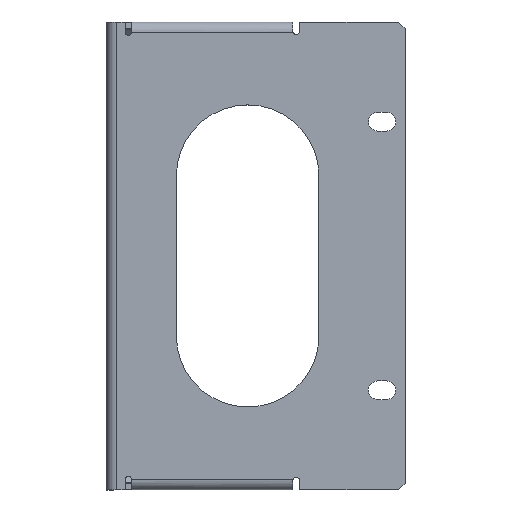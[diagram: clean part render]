
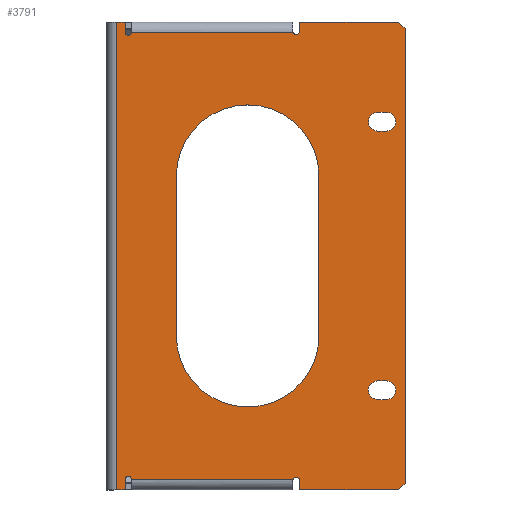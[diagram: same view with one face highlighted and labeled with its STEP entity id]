
A CAD part, top view. The second image highlights one B-rep face of the part: STEP entity #3791.
In plain terms, the highlighted planar face has unit normal (0, 0, 1).
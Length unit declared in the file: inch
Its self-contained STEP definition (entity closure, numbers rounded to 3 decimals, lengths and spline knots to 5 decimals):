
#757=DIRECTION('',(1.,0.,0.));
#758=VECTOR('',#757,2.40123);
#759=CARTESIAN_POINT('',(0.37146,-3.335,0.));
#760=LINE('',#759,#758);
#761=CARTESIAN_POINT('',(0.32146,-3.335,0.));
#762=DIRECTION('',(0.,0.,-1.));
#763=DIRECTION('',(-1.,0.,0.));
#764=AXIS2_PLACEMENT_3D('',#761,#762,#763);
#766=DIRECTION('',(0.,1.,0.));
#767=VECTOR('',#766,0.15);
#768=CARTESIAN_POINT('',(0.27146,-3.485,0.));
#769=LINE('',#768,#767);
#770=DIRECTION('',(1.,0.,0.));
#771=VECTOR('',#770,0.12146);
#772=CARTESIAN_POINT('',(0.15,-3.485,0.));
#773=LINE('',#772,#771);
#774=DIRECTION('',(-1.,0.,0.));
#775=VECTOR('',#774,0.12146);
#776=CARTESIAN_POINT('',(0.27146,3.485,0.));
#777=LINE('',#776,#775);
#778=DIRECTION('',(0.,1.,0.));
#779=VECTOR('',#778,0.15);
#780=CARTESIAN_POINT('',(0.27146,3.335,0.));
#781=LINE('',#780,#779);
#782=CARTESIAN_POINT('',(0.32146,3.335,0.));
#783=DIRECTION('',(0.,0.,-1.));
#784=DIRECTION('',(1.,0.,0.));
#785=AXIS2_PLACEMENT_3D('',#782,#783,#784);
#787=DIRECTION('',(1.,0.,0.));
#788=VECTOR('',#787,2.40123);
#789=CARTESIAN_POINT('',(0.37146,3.335,0.));
#790=LINE('',#789,#788);
#791=CARTESIAN_POINT('',(2.82146,3.346,0.));
#792=DIRECTION('',(0.,0.,-1.));
#793=DIRECTION('',(1.,0.,0.));
#794=AXIS2_PLACEMENT_3D('',#791,#792,#793);
#796=DIRECTION('',(0.,-1.,0.));
#797=VECTOR('',#796,0.139);
#798=CARTESIAN_POINT('',(2.87146,3.485,0.));
#799=LINE('',#798,#797);
#800=DIRECTION('',(-1.,0.,0.));
#801=VECTOR('',#800,1.4726);
#802=CARTESIAN_POINT('',(4.34406,3.485,0.));
#803=LINE('',#802,#801);
#804=DIRECTION('',(0.,1.,0.));
#805=VECTOR('',#804,6.77);
#806=CARTESIAN_POINT('',(4.44406,-3.385,0.));
#807=LINE('',#806,#805);
#808=DIRECTION('',(1.,0.,0.));
#809=VECTOR('',#808,1.4726);
#810=CARTESIAN_POINT('',(2.87146,-3.485,0.));
#811=LINE('',#810,#809);
#812=DIRECTION('',(0.,-1.,0.));
#813=VECTOR('',#812,0.139);
#814=CARTESIAN_POINT('',(2.87146,-3.346,0.));
#815=LINE('',#814,#813);
#816=CARTESIAN_POINT('',(2.82146,-3.346,0.));
#817=DIRECTION('',(0.,0.,-1.));
#818=DIRECTION('',(-0.975,0.22,0.));
#819=AXIS2_PLACEMENT_3D('',#816,#817,#818);
#821=DIRECTION('',(0.,-1.,0.));
#822=VECTOR('',#821,2.375);
#823=CARTESIAN_POINT('',(3.16,1.1875,0.));
#824=LINE('',#823,#822);
#825=CARTESIAN_POINT('',(2.0975,1.1875,0.));
#826=DIRECTION('',(0.,0.,1.));
#827=DIRECTION('',(1.,0.,0.));
#828=AXIS2_PLACEMENT_3D('',#825,#826,#827);
#830=DIRECTION('',(0.,1.,0.));
#831=VECTOR('',#830,2.375);
#832=CARTESIAN_POINT('',(1.035,-1.1875,0.));
#833=LINE('',#832,#831);
#834=CARTESIAN_POINT('',(2.0975,-1.1875,0.));
#835=DIRECTION('',(0.,0.,1.));
#836=DIRECTION('',(-1.,0.,0.));
#837=AXIS2_PLACEMENT_3D('',#834,#835,#836);
#839=DIRECTION('',(1.,0.,0.));
#840=VECTOR('',#839,0.128);
#841=CARTESIAN_POINT('',(4.036,2.139,0.));
#842=LINE('',#841,#840);
#843=CARTESIAN_POINT('',(4.036,2.,0.));
#844=DIRECTION('',(0.,0.,1.));
#845=DIRECTION('',(0.,1.,0.));
#846=AXIS2_PLACEMENT_3D('',#843,#844,#845);
#848=DIRECTION('',(-1.,0.,0.));
#849=VECTOR('',#848,0.128);
#850=CARTESIAN_POINT('',(4.164,1.861,0.));
#851=LINE('',#850,#849);
#852=CARTESIAN_POINT('',(4.164,2.,0.));
#853=DIRECTION('',(0.,0.,1.));
#854=DIRECTION('',(0.,-1.,0.));
#855=AXIS2_PLACEMENT_3D('',#852,#853,#854);
#857=CARTESIAN_POINT('',(4.036,-2.,0.));
#858=DIRECTION('',(0.,0.,1.));
#859=DIRECTION('',(0.,1.,0.));
#860=AXIS2_PLACEMENT_3D('',#857,#858,#859);
#862=DIRECTION('',(-1.,0.,0.));
#863=VECTOR('',#862,0.128);
#864=CARTESIAN_POINT('',(4.164,-2.139,0.));
#865=LINE('',#864,#863);
#866=CARTESIAN_POINT('',(4.164,-2.,0.));
#867=DIRECTION('',(0.,0.,1.));
#868=DIRECTION('',(0.,-1.,0.));
#869=AXIS2_PLACEMENT_3D('',#866,#867,#868);
#871=DIRECTION('',(1.,0.,0.));
#872=VECTOR('',#871,0.128);
#873=CARTESIAN_POINT('',(4.036,-1.861,0.));
#874=LINE('',#873,#872);
#1031=DIRECTION('',(0.707,0.707,0.));
#1032=VECTOR('',#1031,0.14142);
#1033=CARTESIAN_POINT('',(4.34406,-3.485,0.));
#1034=LINE('',#1033,#1032);
#1047=DIRECTION('',(-0.707,0.707,0.));
#1048=VECTOR('',#1047,0.14142);
#1049=CARTESIAN_POINT('',(4.44406,3.385,0.));
#1050=LINE('',#1049,#1048);
#1244=DIRECTION('',(0.,1.,0.));
#1245=VECTOR('',#1244,6.97);
#1246=CARTESIAN_POINT('',(0.15,-3.485,0.));
#1247=LINE('',#1246,#1245);
#2457=CARTESIAN_POINT('',(0.27146,3.485,0.));
#2458=CARTESIAN_POINT('',(0.15,3.485,0.));
#2459=VERTEX_POINT('',#2457);
#2460=VERTEX_POINT('',#2458);
#2469=CARTESIAN_POINT('',(3.16,1.1875,0.));
#2470=CARTESIAN_POINT('',(3.16,-1.1875,0.));
#2471=VERTEX_POINT('',#2469);
#2472=VERTEX_POINT('',#2470);
#2473=CARTESIAN_POINT('',(1.035,-1.1875,0.));
#2474=VERTEX_POINT('',#2473);
#2475=CARTESIAN_POINT('',(1.035,1.1875,0.));
#2476=VERTEX_POINT('',#2475);
#2485=CARTESIAN_POINT('',(4.036,2.139,0.));
#2486=CARTESIAN_POINT('',(4.164,2.139,0.));
#2487=VERTEX_POINT('',#2485);
#2488=VERTEX_POINT('',#2486);
#2489=CARTESIAN_POINT('',(4.164,1.861,0.));
#2490=VERTEX_POINT('',#2489);
#2491=CARTESIAN_POINT('',(4.036,1.861,0.));
#2492=VERTEX_POINT('',#2491);
#2493=CARTESIAN_POINT('',(4.036,-1.861,0.));
#2494=CARTESIAN_POINT('',(4.036,-2.139,0.));
#2495=VERTEX_POINT('',#2493);
#2496=VERTEX_POINT('',#2494);
#2497=CARTESIAN_POINT('',(4.164,-1.861,0.));
#2498=VERTEX_POINT('',#2497);
#2499=CARTESIAN_POINT('',(4.164,-2.139,0.));
#2500=VERTEX_POINT('',#2499);
#2685=CARTESIAN_POINT('',(4.44406,3.385,0.));
#2687=VERTEX_POINT('',#2685);
#2689=CARTESIAN_POINT('',(4.34406,3.485,0.));
#2691=VERTEX_POINT('',#2689);
#2693=CARTESIAN_POINT('',(4.34406,-3.485,0.));
#2695=VERTEX_POINT('',#2693);
#2697=CARTESIAN_POINT('',(4.44406,-3.385,0.));
#2699=VERTEX_POINT('',#2697);
#2701=CARTESIAN_POINT('',(2.87146,3.485,0.));
#2702=CARTESIAN_POINT('',(2.87146,3.346,0.));
#2703=VERTEX_POINT('',#2701);
#2704=VERTEX_POINT('',#2702);
#2705=CARTESIAN_POINT('',(0.27146,3.335,0.));
#2706=VERTEX_POINT('',#2705);
#2737=CARTESIAN_POINT('',(0.37146,3.335,0.));
#2738=VERTEX_POINT('',#2737);
#2743=CARTESIAN_POINT('',(2.77269,3.335,0.));
#2744=VERTEX_POINT('',#2743);
#2768=CARTESIAN_POINT('',(0.27146,-3.485,0.));
#2769=CARTESIAN_POINT('',(0.27146,-3.335,0.));
#2770=VERTEX_POINT('',#2768);
#2771=VERTEX_POINT('',#2769);
#2776=CARTESIAN_POINT('',(2.87146,-3.346,0.));
#2777=CARTESIAN_POINT('',(2.87146,-3.485,0.));
#2778=VERTEX_POINT('',#2776);
#2779=VERTEX_POINT('',#2777);
#2800=CARTESIAN_POINT('',(0.15,-3.485,0.));
#2801=VERTEX_POINT('',#2800);
#2808=CARTESIAN_POINT('',(2.77269,-3.335,0.));
#2809=VERTEX_POINT('',#2808);
#2825=CARTESIAN_POINT('',(0.37146,-3.335,0.));
#2826=VERTEX_POINT('',#2825);
#3719=CARTESIAN_POINT('',(0.17146,0.,0.));
#3720=DIRECTION('',(0.,0.,1.));
#3721=DIRECTION('',(1.,0.,0.));
#3722=AXIS2_PLACEMENT_3D('',#3719,#3720,#3721);
#3723=PLANE('',#3722);
#3725=ORIENTED_EDGE('',*,*,#3724,.F.);
#3727=ORIENTED_EDGE('',*,*,#3726,.F.);
#3729=ORIENTED_EDGE('',*,*,#3728,.F.);
#3730=ORIENTED_EDGE('',*,*,#3710,.F.);
#3732=ORIENTED_EDGE('',*,*,#3731,.T.);
#3734=ORIENTED_EDGE('',*,*,#3733,.F.);
#3736=ORIENTED_EDGE('',*,*,#3735,.F.);
#3738=ORIENTED_EDGE('',*,*,#3737,.F.);
#3740=ORIENTED_EDGE('',*,*,#3739,.T.);
#3742=ORIENTED_EDGE('',*,*,#3741,.F.);
#3744=ORIENTED_EDGE('',*,*,#3743,.F.);
#3746=ORIENTED_EDGE('',*,*,#3745,.F.);
#3748=ORIENTED_EDGE('',*,*,#3747,.F.);
#3750=ORIENTED_EDGE('',*,*,#3749,.F.);
#3752=ORIENTED_EDGE('',*,*,#3751,.F.);
#3754=ORIENTED_EDGE('',*,*,#3753,.F.);
#3756=ORIENTED_EDGE('',*,*,#3755,.F.);
#3758=ORIENTED_EDGE('',*,*,#3757,.F.);
#3759=EDGE_LOOP('',(#3725,#3727,#3729,#3730,#3732,#3734,#3736,#3738,#3740,#3742,
#3744,#3746,#3748,#3750,#3752,#3754,#3756,#3758));
#3760=FACE_OUTER_BOUND('',#3759,.F.);
#3762=ORIENTED_EDGE('',*,*,#3761,.F.);
#3764=ORIENTED_EDGE('',*,*,#3763,.T.);
#3766=ORIENTED_EDGE('',*,*,#3765,.F.);
#3768=ORIENTED_EDGE('',*,*,#3767,.T.);
#3769=EDGE_LOOP('',(#3762,#3764,#3766,#3768));
#3770=FACE_BOUND('',#3769,.F.);
#3772=ORIENTED_EDGE('',*,*,#3771,.F.);
#3774=ORIENTED_EDGE('',*,*,#3773,.T.);
#3776=ORIENTED_EDGE('',*,*,#3775,.F.);
#3778=ORIENTED_EDGE('',*,*,#3777,.T.);
#3779=EDGE_LOOP('',(#3772,#3774,#3776,#3778));
#3780=FACE_BOUND('',#3779,.F.);
#3782=ORIENTED_EDGE('',*,*,#3781,.T.);
#3784=ORIENTED_EDGE('',*,*,#3783,.F.);
#3786=ORIENTED_EDGE('',*,*,#3785,.T.);
#3788=ORIENTED_EDGE('',*,*,#3787,.F.);
#3789=EDGE_LOOP('',(#3782,#3784,#3786,#3788));
#3790=FACE_BOUND('',#3789,.F.);
#3791=ADVANCED_FACE('',(#3760,#3770,#3780,#3790),#3723,.T.);
#765=CIRCLE('',#764,0.05);
#786=CIRCLE('',#785,0.05);
#795=CIRCLE('',#794,0.05);
#820=CIRCLE('',#819,0.05);
#829=CIRCLE('',#828,1.0625);
#838=CIRCLE('',#837,1.0625);
#847=CIRCLE('',#846,0.139);
#856=CIRCLE('',#855,0.139);
#861=CIRCLE('',#860,0.139);
#870=CIRCLE('',#869,0.139);
#3710=EDGE_CURVE('',#2801,#2770,#773,.T.);
#3724=EDGE_CURVE('',#2826,#2809,#760,.T.);
#3726=EDGE_CURVE('',#2771,#2826,#765,.T.);
#3728=EDGE_CURVE('',#2770,#2771,#769,.T.);
#3731=EDGE_CURVE('',#2801,#2460,#1247,.T.);
#3733=EDGE_CURVE('',#2459,#2460,#777,.T.);
#3735=EDGE_CURVE('',#2706,#2459,#781,.T.);
#3737=EDGE_CURVE('',#2738,#2706,#786,.T.);
#3739=EDGE_CURVE('',#2738,#2744,#790,.T.);
#3741=EDGE_CURVE('',#2704,#2744,#795,.T.);
#3743=EDGE_CURVE('',#2703,#2704,#799,.T.);
#3745=EDGE_CURVE('',#2691,#2703,#803,.T.);
#3747=EDGE_CURVE('',#2687,#2691,#1050,.T.);
#3749=EDGE_CURVE('',#2699,#2687,#807,.T.);
#3751=EDGE_CURVE('',#2695,#2699,#1034,.T.);
#3753=EDGE_CURVE('',#2779,#2695,#811,.T.);
#3755=EDGE_CURVE('',#2778,#2779,#815,.T.);
#3757=EDGE_CURVE('',#2809,#2778,#820,.T.);
#3761=EDGE_CURVE('',#2471,#2472,#824,.T.);
#3763=EDGE_CURVE('',#2471,#2476,#829,.T.);
#3765=EDGE_CURVE('',#2474,#2476,#833,.T.);
#3767=EDGE_CURVE('',#2474,#2472,#838,.T.);
#3771=EDGE_CURVE('',#2487,#2488,#842,.T.);
#3773=EDGE_CURVE('',#2487,#2492,#847,.T.);
#3775=EDGE_CURVE('',#2490,#2492,#851,.T.);
#3777=EDGE_CURVE('',#2490,#2488,#856,.T.);
#3781=EDGE_CURVE('',#2495,#2496,#861,.T.);
#3783=EDGE_CURVE('',#2500,#2496,#865,.T.);
#3785=EDGE_CURVE('',#2500,#2498,#870,.T.);
#3787=EDGE_CURVE('',#2495,#2498,#874,.T.);
